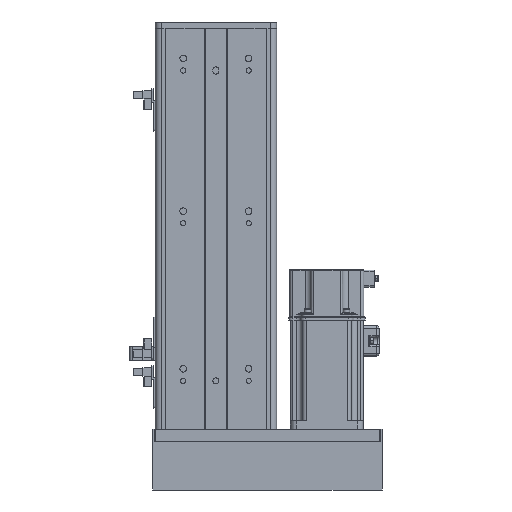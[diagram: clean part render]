
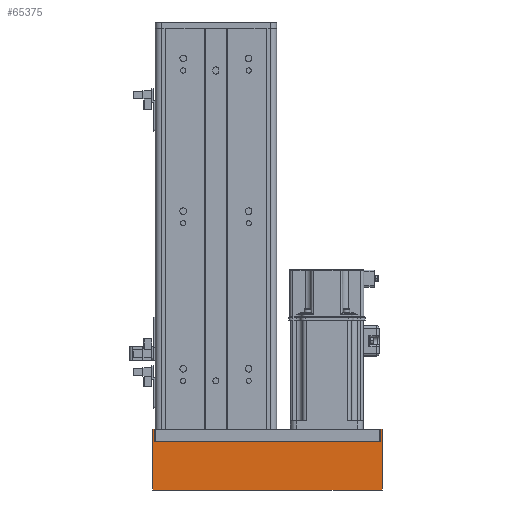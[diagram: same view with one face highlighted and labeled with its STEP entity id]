
A CAD part, front view. The second image highlights one B-rep face of the part: STEP entity #65375.
In plain terms, the highlighted planar face has unit normal (0, -1, 0).
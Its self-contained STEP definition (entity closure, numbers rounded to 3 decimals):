
#1100 = VECTOR ( 'NONE', #43975, 1000. ) ;
#1136 = VERTEX_POINT ( 'NONE', #4021 ) ;
#2476 = LINE ( 'NONE', #5515, #44963 ) ;
#4021 = CARTESIAN_POINT ( 'NONE',  ( -92.8, -35.5, 10. ) ) ;
#4399 = FACE_OUTER_BOUND ( 'NONE', #62472, .T. ) ;
#5515 = CARTESIAN_POINT ( 'NONE',  ( -92.8, -35.5, 50. ) ) ;
#7381 = DIRECTION ( 'NONE',  ( 0., 1., 0. ) ) ;
#8088 = CARTESIAN_POINT ( 'NONE',  ( -92.8, -35.5, 10. ) ) ;
#8422 = LINE ( 'NONE', #53273, #12483 ) ;
#9847 = VERTEX_POINT ( 'NONE', #53281 ) ;
#10881 = LINE ( 'NONE', #64149, #59942 ) ;
#12483 = VECTOR ( 'NONE', #47779, 1000. ) ;
#14541 = ORIENTED_EDGE ( 'NONE', *, *, #20151, .F. ) ;
#15881 = EDGE_CURVE ( 'NONE', #9847, #60660, #8422, .T. ) ;
#16241 = VECTOR ( 'NONE', #44883, 1000. ) ;
#16415 = EDGE_CURVE ( 'NONE', #58213, #9847, #10881, .T. ) ;
#17192 = CARTESIAN_POINT ( 'NONE',  ( 93., -35.5, 10. ) ) ;
#17871 = DIRECTION ( 'NONE',  ( 0., 0., 1. ) ) ;
#20132 = CARTESIAN_POINT ( 'NONE',  ( 94.6, -35.5, 48.4 ) ) ;
#20151 = EDGE_CURVE ( 'NONE', #25377, #54242, #42083, .T. ) ;
#23179 = EDGE_CURVE ( 'NONE', #54242, #54066, #2476, .T. ) ;
#25377 = VERTEX_POINT ( 'NONE', #39499 ) ;
#25669 = EDGE_CURVE ( 'NONE', #60660, #1136, #31800, .T. ) ;
#26715 = DIRECTION ( 'NONE',  ( 1., 0., 0. ) ) ;
#27468 = CARTESIAN_POINT ( 'NONE',  ( -92.8, -35.5, 0. ) ) ;
#28601 = VECTOR ( 'NONE', #62488, 1000. ) ;
#28828 = CARTESIAN_POINT ( 'NONE',  ( -92.8, -35.5, 0. ) ) ;
#29396 = LINE ( 'NONE', #51991, #28601 ) ;
#31800 = LINE ( 'NONE', #8088, #16241 ) ;
#32859 = DIRECTION ( 'NONE',  ( -1., 0., 0. ) ) ;
#34308 = ORIENTED_EDGE ( 'NONE', *, *, #15881, .F. ) ;
#37775 = CARTESIAN_POINT ( 'NONE',  ( -94.4, -35.5, 50. ) ) ;
#38282 = ORIENTED_EDGE ( 'NONE', *, *, #56963, .F. ) ;
#38507 = VECTOR ( 'NONE', #56942, 1000. ) ;
#39499 = CARTESIAN_POINT ( 'NONE',  ( -94.4, -35.5, 0. ) ) ;
#42083 = LINE ( 'NONE', #50034, #47744 ) ;
#43975 = DIRECTION ( 'NONE',  ( -1., 0., 0. ) ) ;
#44389 = PLANE ( 'NONE',  #45805 ) ;
#44589 = ORIENTED_EDGE ( 'NONE', *, *, #55968, .F. ) ;
#44775 = EDGE_CURVE ( 'NONE', #58213, #54066, #64601, .T. ) ;
#44883 = DIRECTION ( 'NONE',  ( -1., 0., 0. ) ) ;
#44963 = VECTOR ( 'NONE', #26715, 1000. ) ;
#44996 = ORIENTED_EDGE ( 'NONE', *, *, #16415, .F. ) ;
#45244 = DIRECTION ( 'NONE',  ( 0., 0., 1. ) ) ;
#45805 = AXIS2_PLACEMENT_3D ( 'NONE', #49389, #7381, #17871 ) ;
#46912 = CARTESIAN_POINT ( 'NONE',  ( 94.6, -35.5, 50. ) ) ;
#47744 = VECTOR ( 'NONE', #45244, 1000. ) ;
#47779 = DIRECTION ( 'NONE',  ( 0., 0., 1. ) ) ;
#49315 = LINE ( 'NONE', #28828, #1100 ) ;
#49389 = CARTESIAN_POINT ( 'NONE',  ( -92.8, -35.5, 48.4 ) ) ;
#50034 = CARTESIAN_POINT ( 'NONE',  ( -94.4, -35.5, 48.4 ) ) ;
#51991 = CARTESIAN_POINT ( 'NONE',  ( -92.8, -35.5, 48.4 ) ) ;
#53273 = CARTESIAN_POINT ( 'NONE',  ( 93., -35.5, 48.4 ) ) ;
#53281 = CARTESIAN_POINT ( 'NONE',  ( 93., -35.5, 0. ) ) ;
#54066 = VERTEX_POINT ( 'NONE', #46912 ) ;
#54242 = VERTEX_POINT ( 'NONE', #37775 ) ;
#55818 = VERTEX_POINT ( 'NONE', #27468 ) ;
#55968 = EDGE_CURVE ( 'NONE', #55818, #25377, #49315, .T. ) ;
#56107 = ORIENTED_EDGE ( 'NONE', *, *, #25669, .F. ) ;
#56942 = DIRECTION ( 'NONE',  ( 0., 0., 1. ) ) ;
#56963 = EDGE_CURVE ( 'NONE', #1136, #55818, #29396, .T. ) ;
#57323 = ORIENTED_EDGE ( 'NONE', *, *, #23179, .F. ) ;
#58213 = VERTEX_POINT ( 'NONE', #63395 ) ;
#58304 = ORIENTED_EDGE ( 'NONE', *, *, #44775, .T. ) ;
#59942 = VECTOR ( 'NONE', #32859, 1000. ) ;
#60660 = VERTEX_POINT ( 'NONE', #17192 ) ;
#62472 = EDGE_LOOP ( 'NONE', ( #34308, #44996, #58304, #57323, #14541, #44589, #38282, #56107 ) ) ;
#62488 = DIRECTION ( 'NONE',  ( 0., 0., -1. ) ) ;
#63395 = CARTESIAN_POINT ( 'NONE',  ( 94.6, -35.5, 0. ) ) ;
#64149 = CARTESIAN_POINT ( 'NONE',  ( -92.8, -35.5, 0. ) ) ;
#64601 = LINE ( 'NONE', #20132, #38507 ) ;
#65375 = ADVANCED_FACE ( 'NONE', ( #4399 ), #44389, .F. ) ;
